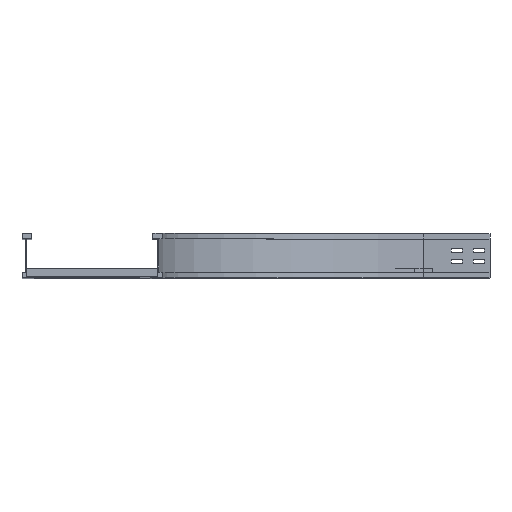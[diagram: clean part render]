
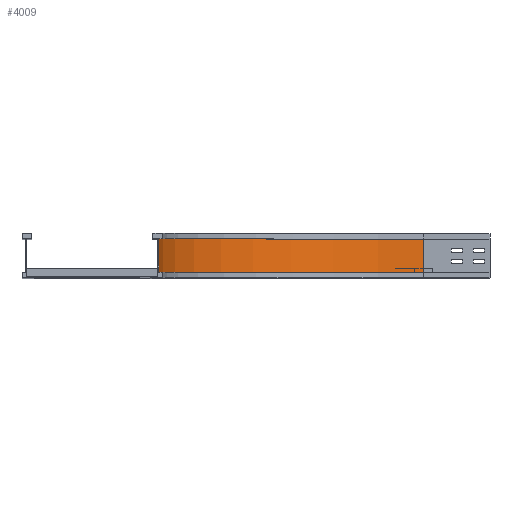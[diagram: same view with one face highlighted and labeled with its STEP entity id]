
A CAD part, top view. The second image highlights one B-rep face of the part: STEP entity #4009.
In plain terms, the highlighted cylindrical face has radius 600 mm (diameter 1200 mm), a partial arc.
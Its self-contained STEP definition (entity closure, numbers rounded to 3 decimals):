
#44 = VERTEX_POINT ( 'NONE', #822 ) ;
#68 = CYLINDRICAL_SURFACE ( 'NONE', #3165, 600. ) ;
#303 = VECTOR ( 'NONE', #2955, 1000. ) ;
#369 = FACE_OUTER_BOUND ( 'NONE', #4322, .T. ) ;
#396 = CARTESIAN_POINT ( 'NONE',  ( 591., 0., -150. ) ) ;
#423 = DIRECTION ( 'NONE',  ( 0., 0., -1. ) ) ;
#822 = CARTESIAN_POINT ( 'NONE',  ( -9., 12., -150. ) ) ;
#965 = CIRCLE ( 'NONE', #2648, 600. ) ;
#1176 = VERTEX_POINT ( 'NONE', #2063 ) ;
#1226 = CARTESIAN_POINT ( 'NONE',  ( 591., 12., -750. ) ) ;
#1274 = DIRECTION ( 'NONE',  ( 0., 1., 0. ) ) ;
#1484 = VECTOR ( 'NONE', #1274, 1000. ) ;
#1539 = DIRECTION ( 'NONE',  ( 0., -1., 0. ) ) ;
#1566 = EDGE_CURVE ( 'NONE', #44, #1176, #1921, .T. ) ;
#1798 = DIRECTION ( 'NONE',  ( 0., -1., 0. ) ) ;
#1825 = CARTESIAN_POINT ( 'NONE',  ( -9., 12., -150. ) ) ;
#1921 = LINE ( 'NONE', #1825, #303 ) ;
#2063 = CARTESIAN_POINT ( 'NONE',  ( -9., 88., -150. ) ) ;
#2099 = ORIENTED_EDGE ( 'NONE', *, *, #1566, .F. ) ;
#2126 = CARTESIAN_POINT ( 'NONE',  ( 591., 12., -150. ) ) ;
#2132 = CARTESIAN_POINT ( 'NONE',  ( 591., 88., -150. ) ) ;
#2234 = ORIENTED_EDGE ( 'NONE', *, *, #4167, .T. ) ;
#2299 = VERTEX_POINT ( 'NONE', #3408 ) ;
#2338 = CARTESIAN_POINT ( 'NONE',  ( 591., 88., -750. ) ) ;
#2648 = AXIS2_PLACEMENT_3D ( 'NONE', #2132, #1798, #3258 ) ;
#2752 = ORIENTED_EDGE ( 'NONE', *, *, #3933, .F. ) ;
#2955 = DIRECTION ( 'NONE',  ( 0., 1., 0. ) ) ;
#3155 = EDGE_CURVE ( 'NONE', #44, #2299, #4616, .T. ) ;
#3165 = AXIS2_PLACEMENT_3D ( 'NONE', #396, #1539, #423 ) ;
#3258 = DIRECTION ( 'NONE',  ( -1., 0., 0. ) ) ;
#3327 = AXIS2_PLACEMENT_3D ( 'NONE', #2126, #3601, #3559 ) ;
#3408 = CARTESIAN_POINT ( 'NONE',  ( 591., 12., -750. ) ) ;
#3559 = DIRECTION ( 'NONE',  ( -1., 0., 0. ) ) ;
#3601 = DIRECTION ( 'NONE',  ( 0., -1., 0. ) ) ;
#3933 = EDGE_CURVE ( 'NONE', #1176, #4641, #965, .T. ) ;
#4009 = ADVANCED_FACE ( 'NONE', ( #369 ), #68, .F. ) ;
#4167 = EDGE_CURVE ( 'NONE', #2299, #4641, #4187, .T. ) ;
#4187 = LINE ( 'NONE', #1226, #1484 ) ;
#4322 = EDGE_LOOP ( 'NONE', ( #2752, #2099, #4360, #2234 ) ) ;
#4360 = ORIENTED_EDGE ( 'NONE', *, *, #3155, .T. ) ;
#4616 = CIRCLE ( 'NONE', #3327, 600. ) ;
#4641 = VERTEX_POINT ( 'NONE', #2338 ) ;
